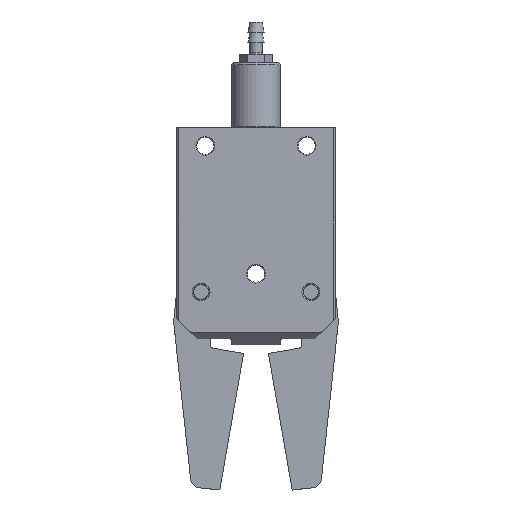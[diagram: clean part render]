
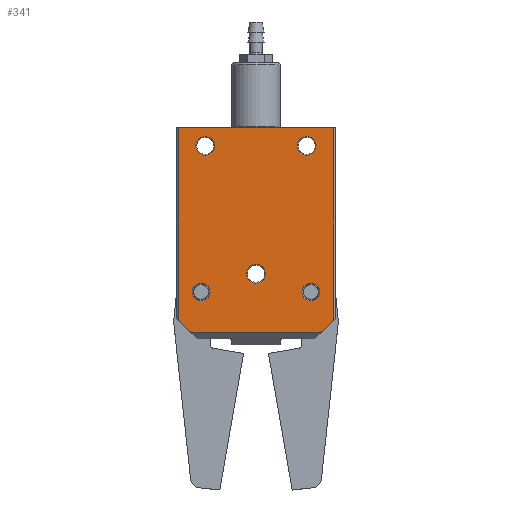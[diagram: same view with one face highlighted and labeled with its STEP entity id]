
A CAD part, top view. The second image highlights one B-rep face of the part: STEP entity #341.
In plain terms, the highlighted planar face has unit normal (0, 0, 1).
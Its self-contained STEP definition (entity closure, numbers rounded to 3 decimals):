
#140=FACE_BOUND('',#664,.T.);
#141=FACE_BOUND('',#665,.T.);
#142=FACE_BOUND('',#666,.T.);
#143=FACE_BOUND('',#667,.T.);
#144=FACE_BOUND('',#668,.T.);
#145=FACE_BOUND('',#669,.T.);
#220=PLANE('',#2840);
#341=ADVANCED_FACE('',(#140,#141,#142,#143,#144,#145),#220,.T.);
#664=EDGE_LOOP('',(#1123,#1124,#1125,#1126,#1127,#1128));
#665=EDGE_LOOP('',(#1129));
#666=EDGE_LOOP('',(#1130));
#667=EDGE_LOOP('',(#1131));
#668=EDGE_LOOP('',(#1132));
#669=EDGE_LOOP('',(#1133));
#846=CIRCLE('',#2805,2.2);
#848=CIRCLE('',#2808,2.3);
#849=CIRCLE('',#2810,2.2);
#851=CIRCLE('',#2813,2.3);
#852=CIRCLE('',#2815,2.3);
#1123=ORIENTED_EDGE('',*,*,#2040,.T.);
#1124=ORIENTED_EDGE('',*,*,#2004,.T.);
#1125=ORIENTED_EDGE('',*,*,#2041,.T.);
#1126=ORIENTED_EDGE('',*,*,#2042,.T.);
#1127=ORIENTED_EDGE('',*,*,#2043,.T.);
#1128=ORIENTED_EDGE('',*,*,#2044,.T.);
#1129=ORIENTED_EDGE('',*,*,#1968,.T.);
#1130=ORIENTED_EDGE('',*,*,#1970,.T.);
#1131=ORIENTED_EDGE('',*,*,#1971,.T.);
#1132=ORIENTED_EDGE('',*,*,#1973,.T.);
#1133=ORIENTED_EDGE('',*,*,#1974,.T.);
#1710=VERTEX_POINT('',#3956);
#1712=VERTEX_POINT('',#3961);
#1713=VERTEX_POINT('',#3964);
#1715=VERTEX_POINT('',#3969);
#1716=VERTEX_POINT('',#3972);
#1742=VERTEX_POINT('',#4042);
#1743=VERTEX_POINT('',#4044);
#1768=VERTEX_POINT('',#4118);
#1769=VERTEX_POINT('',#4120);
#1770=VERTEX_POINT('',#4122);
#1771=VERTEX_POINT('',#4124);
#1968=EDGE_CURVE('',#1710,#1710,#846,.T.);
#1970=EDGE_CURVE('',#1712,#1712,#848,.T.);
#1971=EDGE_CURVE('',#1713,#1713,#849,.T.);
#1973=EDGE_CURVE('',#1715,#1715,#851,.T.);
#1974=EDGE_CURVE('',#1716,#1716,#852,.T.);
#2004=EDGE_CURVE('',#1743,#1742,#2312,.T.);
#2040=EDGE_CURVE('',#1768,#1743,#2343,.T.);
#2041=EDGE_CURVE('',#1742,#1769,#2344,.T.);
#2042=EDGE_CURVE('',#1769,#1770,#2345,.T.);
#2043=EDGE_CURVE('',#1770,#1771,#2346,.T.);
#2044=EDGE_CURVE('',#1771,#1768,#2347,.T.);
#2312=LINE('',#4043,#2568);
#2343=LINE('',#4117,#2599);
#2344=LINE('',#4119,#2600);
#2345=LINE('',#4121,#2601);
#2346=LINE('',#4123,#2602);
#2347=LINE('',#4125,#2603);
#2568=VECTOR('',#3246,1.);
#2599=VECTOR('',#3297,1.);
#2600=VECTOR('',#3298,1.);
#2601=VECTOR('',#3299,1.);
#2602=VECTOR('',#3300,1.);
#2603=VECTOR('',#3301,1.);
#2805=AXIS2_PLACEMENT_3D('',#3955,#3174,#3175);
#2808=AXIS2_PLACEMENT_3D('',#3960,#3180,#3181);
#2810=AXIS2_PLACEMENT_3D('',#3963,#3184,#3185);
#2813=AXIS2_PLACEMENT_3D('',#3968,#3190,#3191);
#2815=AXIS2_PLACEMENT_3D('',#3971,#3194,#3195);
#2840=AXIS2_PLACEMENT_3D('',#4126,#3302,#3303);
#3174=DIRECTION('',(0.,0.,-1.));
#3175=DIRECTION('',(0.,-1.,0.));
#3180=DIRECTION('',(0.,0.,-1.));
#3181=DIRECTION('',(0.,-1.,0.));
#3184=DIRECTION('',(0.,0.,-1.));
#3185=DIRECTION('',(0.,-1.,0.));
#3190=DIRECTION('',(0.,0.,-1.));
#3191=DIRECTION('',(1.,0.,0.));
#3194=DIRECTION('',(0.,0.,-1.));
#3195=DIRECTION('',(1.,0.,0.));
#3246=DIRECTION('',(-1.,0.,0.));
#3297=DIRECTION('',(0.,1.,0.));
#3298=DIRECTION('',(0.,-1.,0.));
#3299=DIRECTION('',(0.707,-0.707,0.));
#3300=DIRECTION('',(1.,0.,0.));
#3301=DIRECTION('',(0.707,0.707,0.));
#3302=DIRECTION('',(0.,0.,1.));
#3303=DIRECTION('',(-1.,0.,0.));
#3955=CARTESIAN_POINT('',(-21.018,-20.872,76.9));
#3956=CARTESIAN_POINT('',(-21.018,-23.072,76.9));
#3960=CARTESIAN_POINT('',(-7.518,-16.372,76.9));
#3961=CARTESIAN_POINT('',(-7.518,-18.672,76.9));
#3963=CARTESIAN_POINT('',(5.982,-20.872,76.9));
#3964=CARTESIAN_POINT('',(5.982,-23.072,76.9));
#3968=CARTESIAN_POINT('',(4.982,15.128,76.9));
#3969=CARTESIAN_POINT('',(7.282,15.128,76.9));
#3971=CARTESIAN_POINT('',(-20.018,15.128,76.9));
#3972=CARTESIAN_POINT('',(-17.718,15.128,76.9));
#4042=CARTESIAN_POINT('',(-26.518,19.628,76.9));
#4043=CARTESIAN_POINT('',(-27.018,19.628,76.9));
#4044=CARTESIAN_POINT('',(11.482,19.628,76.9));
#4117=CARTESIAN_POINT('',(11.482,-30.872,76.9));
#4118=CARTESIAN_POINT('',(11.482,-27.872,76.9));
#4119=CARTESIAN_POINT('',(-26.518,-30.872,76.9));
#4120=CARTESIAN_POINT('',(-26.518,-27.872,76.9));
#4121=CARTESIAN_POINT('',(-26.518,-27.872,76.9));
#4122=CARTESIAN_POINT('',(-23.518,-30.872,76.9));
#4123=CARTESIAN_POINT('',(-26.518,-30.872,76.9));
#4124=CARTESIAN_POINT('',(8.482,-30.872,76.9));
#4125=CARTESIAN_POINT('',(8.482,-30.872,76.9));
#4126=CARTESIAN_POINT('',(-26.518,-30.872,76.9));
